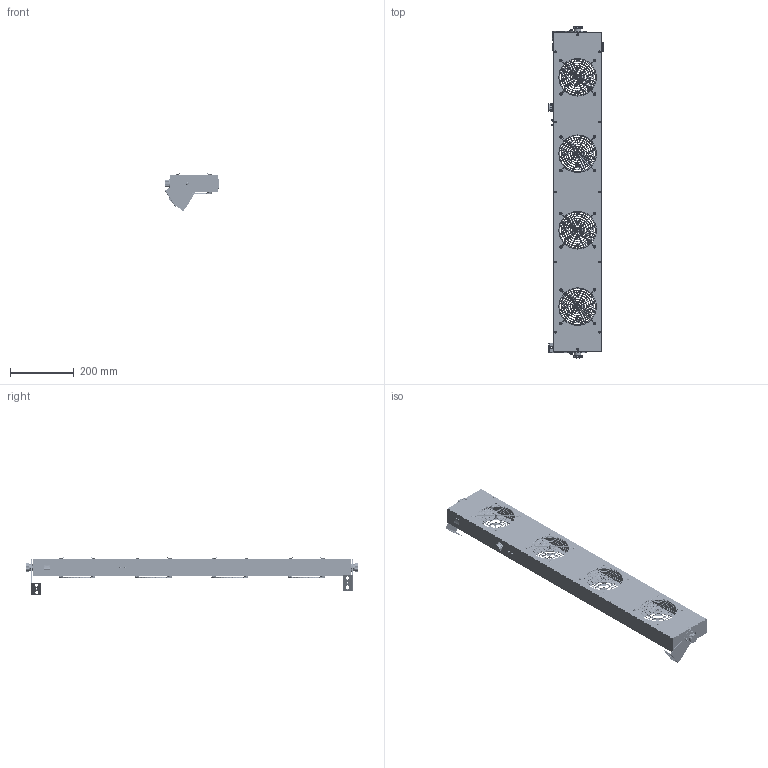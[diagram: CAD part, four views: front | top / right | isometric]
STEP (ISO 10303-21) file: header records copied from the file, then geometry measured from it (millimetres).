
FILE_DESCRIPTION (( 'STEP AP214' ), '1' );
FILE_NAME ('AP-DC2452-100C×°Åä.STEP', '2022-02-22T09:34:20', ( '' ), ( '' ), 'SwSTEP 2.0', 'SolidWorks 2020', '' );
FILE_SCHEMA (( 'AUTOMOTIVE_DESIGN' ));
Length unit declared in the file: millimetre
Products named in the file (12): ______^AP-DC2452-100C蚾饜(2)_AP-DC2452-100C蚾饜; ____1000____-0^AP-DC2452-100C蚾饜(2)_AP-DC2452-100C蚾饜; ____1000____^AP-DC2452-100C蚾饜(2)_AP-DC2452-100C蚾饜; ____22-20-17^AP-DC2452-100C蚾饜(2)_AP-DC2452-100C蚾饜; 郪磁蹟隊M4X14祥凄詩; AP-DC2452-100C蚾饜; ______________27-24-15__^AP-DC2452-100C蚾饜(2)_AP-DC2452-100C蚾饜; ____31-27-22^AP-DC2452-100C蚾饜(2)_AP-DC2452-100C蚾饜; 2452__________^AP-DC2452-100C蚾饜(2)_AP-DC2452-100C蚾饜; AP-DC2452-100C蚾饜(2)^AP-DC2452-100C蚾饜; AP6116060-DC2452-60C 80C 100C 窪伎盓殤; __________M6-20-16__^AP-DC2452-100C蚾饜(2)_AP-DC2452-100C蚾饜
Assembly tree (22 placements, depth 3):
  AP-DC2452-100C蚾饜
    AP-DC2452-100C蚾饜(2)^AP-DC2452-100C蚾饜
      ____1000____^AP-DC2452-100C蚾饜(2)_AP-DC2452-100C蚾饜
      ____1000____-0^AP-DC2452-100C蚾饜(2)_AP-DC2452-100C蚾饜
      2452__________^AP-DC2452-100C蚾饜(2)_AP-DC2452-100C蚾饜  x8
      ______^AP-DC2452-100C蚾饜(2)_AP-DC2452-100C蚾饜  x2
      ______________27-24-15__^AP-DC2452-100C蚾饜(2)_AP-DC2452-100C蚾饜
      ____22-20-17^AP-DC2452-100C蚾饜(2)_AP-DC2452-100C蚾饜
      ____31-27-22^AP-DC2452-100C蚾饜(2)_AP-DC2452-100C蚾饜
      __________M6-20-16__^AP-DC2452-100C蚾饜(2)_AP-DC2452-100C蚾饜  x2
    AP6116060-DC2452-60C 80C 100C 窪伎盓殤  x2
    郪磁蹟隊M4X14祥凄詩  x2
Bounding box: 170.21 x 1042 x 120.7 mm (x, y, z)
Volume: 631417.9 mm3; surface area: 851161.8 mm2
Topology: 54 solids, 54 shells, 3084 faces, 8681 edges, 5364 vertices
Faces by surface type: plane 1270, cylinder 918, bspline 836, cone 48, torus 8, sphere 4
Entity records: 45185 total; most frequent: CARTESIAN_POINT 17876, ORIENTED_EDGE 5648, DIRECTION 4738, EDGE_CURVE 2824, AXIS2_PLACEMENT_3D 1842, VERTEX_POINT 1806, EDGE_LOOP 1356, ADVANCED_FACE 1091
